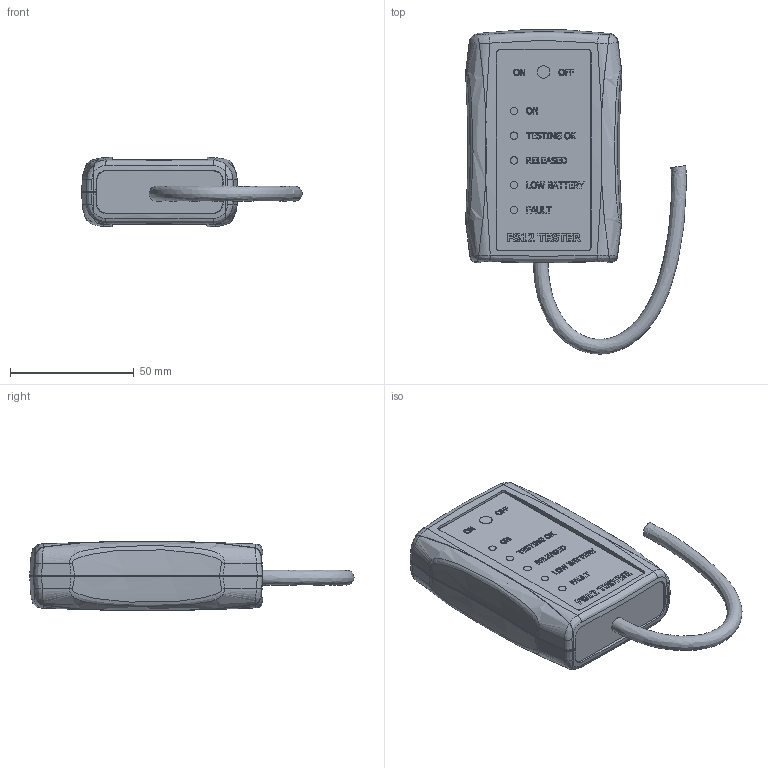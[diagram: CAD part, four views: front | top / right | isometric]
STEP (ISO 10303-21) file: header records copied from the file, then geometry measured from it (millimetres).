
FILE_DESCRIPTION(/* description */ ('FS12 Tester'),/* implementation_level */ '2;1');
FILE_NAME(/* name */ 'C:\Users\tokti\AppData\Local\Temp\1io4ycl4.j1y\2878010012295.stp',/* time_stamp */ '2023-05-09T16:34:09+02:00',/* author */ ('thp'),/* organization */ (''),/* preprocessor_version */ 'ST-DEVELOPER v18.1',/* originating_system */ 'Autodesk Inventor 2020',/* authorisation */ '');
FILE_SCHEMA (('AUTOMOTIVE_DESIGN { 1 0 10303 214 3 1 1 }'));
Products named in the file (4): 2878010012295; 287898990012293; 287898010012292; 287898980012294
Assembly tree (3 placements, depth 2):
  2878010012295
    287898990012293
    287898010012292
    287898980012294
Bounding box: 89.25 x 131.17 x 27.94 mm (x, y, z)
Volume: 53494.6 mm3; surface area: 71999.3 mm2
Topology: 18 solids, 18 shells, 3222 faces, 8840 edges, 5871 vertices
Faces by surface type: plane 2257, bspline 664, cylinder 208, cone 56, torus 33, sphere 4
Full cylindrical faces by diameter (mm): 1.016 x32, 1.854 x4, 2.184 x4, 2.54 x4, 3 x5, 3.175 x32, 4.242 x4, 5 x1
Entity records: 135565 total; most frequent: CARTESIAN_POINT 56768, ORIENTED_EDGE 17680, DIRECTION 13095, EDGE_CURVE 8840, LINE 6633, VECTOR 6633, VERTEX_POINT 5871, EDGE_LOOP 3487
